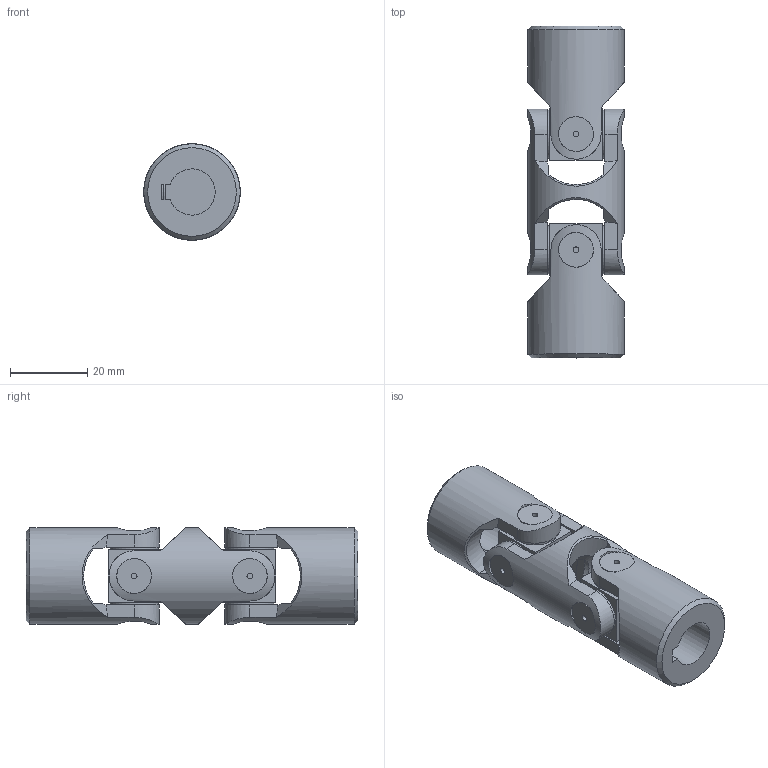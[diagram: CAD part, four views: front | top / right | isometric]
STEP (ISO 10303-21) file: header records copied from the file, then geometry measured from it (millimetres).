
FILE_DESCRIPTION(/* description */ (''),/* implementation_level */ '2;1');
FILE_NAME(/* name */ '\\SRV2016\Societa\Stefano\Disegni 3D\00Catalogo 3D\02Doppi GD-GBD\SG0D121C.stp',/* time_stamp */ '2021-11-22T17:13:36+01:00',/* author */ ('acquisti'),/* organization */ (''),/* preprocessor_version */ 'ST-DEVELOPER v15.6',/* originating_system */ 'Autodesk Inventor 2015',/* authorisation */ '');
FILE_SCHEMA (('AUTOMOTIVE_DESIGN { 1 0 10303 214 3 1 1 }'));
Length unit declared in the file: millimetre
Products named in the file (5): 04G MOD; 04G SFE; 04G MOC; 04G MOS; Ø25_04GD-00_SG0D1200
Assembly tree (5 placements, depth 2):
  Ø25_04GD-00_SG0D1200
    04G MOD
    04G SFE  x2
    04G MOC
    04G MOS
Bounding box: 25 x 86 x 25 mm (x, y, z)
Volume: 27636 mm3; surface area: 13587.6 mm2
Topology: 5 solids, 5 shells, 164 faces, 386 edges, 252 vertices
Faces by surface type: plane 73, cylinder 65, cone 22, torus 4
Full cylindrical faces by diameter (mm): 1.5 x8, 12 x1, 12.5 x8, 13 x3, 25 x3
Entity records: 5081 total; most frequent: CARTESIAN_POINT 1783, ORIENTED_EDGE 664, DIRECTION 627, EDGE_CURVE 332, AXIS2_PLACEMENT_3D 279, VERTEX_POINT 234, EDGE_LOOP 200, FACE_OUTER_BOUND 150
